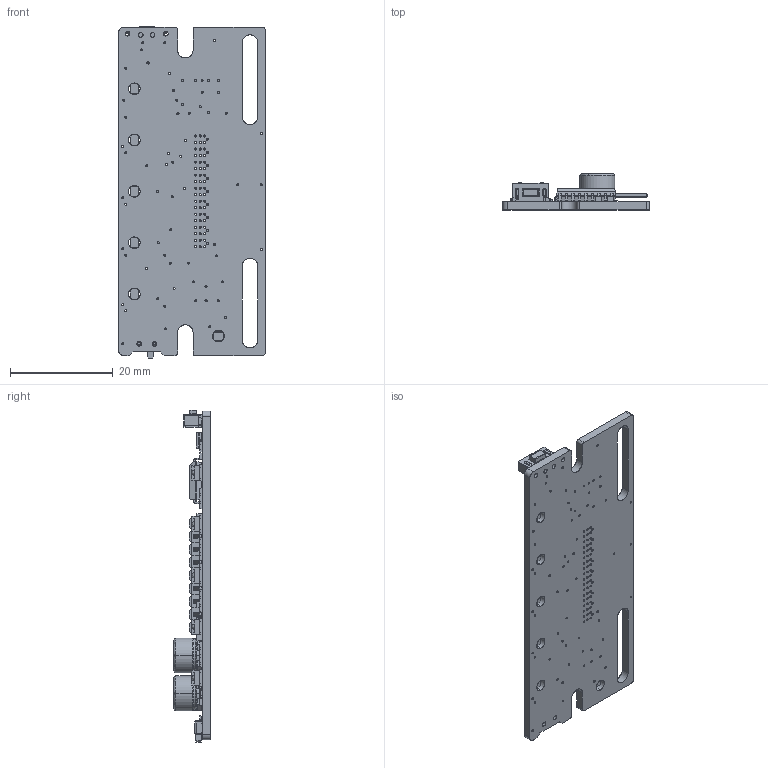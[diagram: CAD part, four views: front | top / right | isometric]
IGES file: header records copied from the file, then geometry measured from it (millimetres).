
Start section: SolidWorks IGES file using analytic representation for surfaces
Global section: file name: D:\Cytron\Technical\MAKER LINE\maker-line\Mechanical CAD\MAKER-LINE.IGS; native system: SolidWorks 2015; preprocessor: SolidWorks 2015; author: DIANMIAO; date: 190701.153119; units: millimetre
Bounding box: 28.6 x 7.08 x 64.69 mm (x, y, z)
Surface area: 6620.2 mm2 (no closed solid volume)
Topology: 0 solids, 0 shells, 2300 faces, 17962 edges, 17922 vertices
Faces by surface type: bspline 1695, revolution 605
